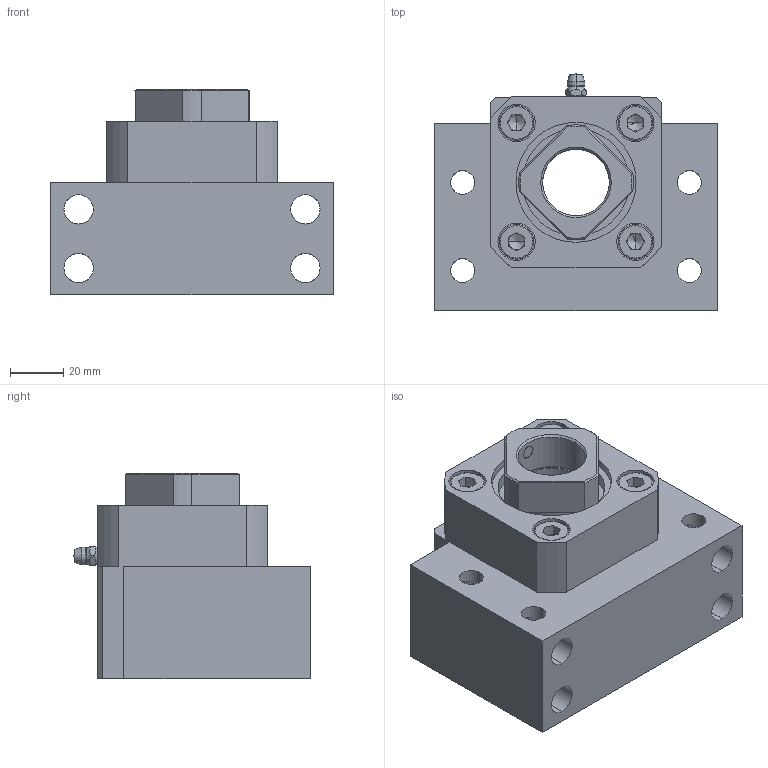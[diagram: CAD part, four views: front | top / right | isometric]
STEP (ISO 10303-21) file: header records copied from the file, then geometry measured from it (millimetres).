
FILE_DESCRIPTION (( 'STEP AP203' ), '1' );
FILE_NAME ('BK25G.STEP', '2018-09-15T02:06:35', ( '' ), ( '' ), 'SwSTEP 2.0', 'SolidWorks 2015', '' );
FILE_SCHEMA (( 'CONFIG_CONTROL_DESIGN' ));
Length unit declared in the file: millimetre
Products named in the file (1): BK25G
Bounding box: 106 x 88.9 x 77 mm (x, y, z)
Volume: 345706.3 mm3; surface area: 79736.2 mm2
Topology: 1 solids, 16 shells, 409 faces, 989 edges, 604 vertices
Faces by surface type: cylinder 153, plane 137, cone 64, torus 48, bspline 7
Entity records: 13483 total; most frequent: CARTESIAN_POINT 3769, DIRECTION 2109, ORIENTED_EDGE 1938, EDGE_CURVE 969, AXIS2_PLACEMENT_3D 854, VERTEX_POINT 604, EDGE_LOOP 477, CIRCLE 451
